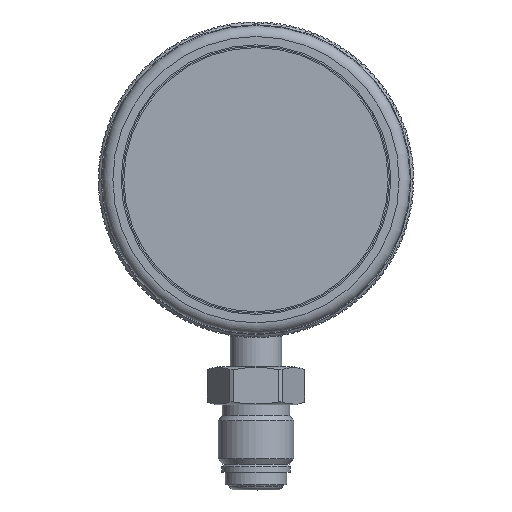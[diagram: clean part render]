
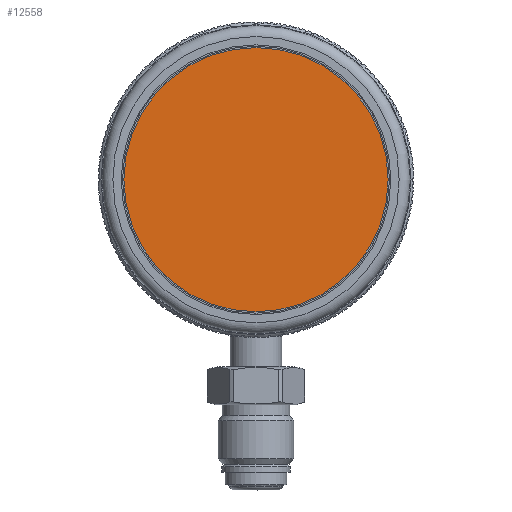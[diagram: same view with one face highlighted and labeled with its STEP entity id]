
A CAD part, top view. The second image highlights one B-rep face of the part: STEP entity #12558.
In plain terms, the highlighted planar face has unit normal (0, 0, 1) as drawn and (-1, 0, 0) by its records, which use the part's own axes.
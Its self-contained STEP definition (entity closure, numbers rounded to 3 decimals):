
#522=PLANE('',#13744);
#1317=FACE_OUTER_BOUND('',#1967,.T.);
#1967=EDGE_LOOP('',(#11889));
#5143=CIRCLE('',#13743,24.501);
#6373=VERTEX_POINT('',#23541);
#8213=EDGE_CURVE('',#6373,#6373,#5143,.T.);
#11889=ORIENTED_EDGE('',*,*,#8213,.F.);
#12558=ADVANCED_FACE('',(#1317),#522,.T.);
#13743=AXIS2_PLACEMENT_3D('',#23542,#17327,#17328);
#13744=AXIS2_PLACEMENT_3D('',#23544,#17330,#17331);
#17327=DIRECTION('center_axis',(1.,0.,0.));
#17328=DIRECTION('ref_axis',(0.,0.,1.));
#17330=DIRECTION('center_axis',(-1.,0.,0.));
#17331=DIRECTION('ref_axis',(0.,0.,1.));
#23541=CARTESIAN_POINT('',(169.936,108.808,-24.501));
#23542=CARTESIAN_POINT('Origin',(169.936,108.808,0.));
#23544=CARTESIAN_POINT('Origin',(169.936,108.808,0.));
